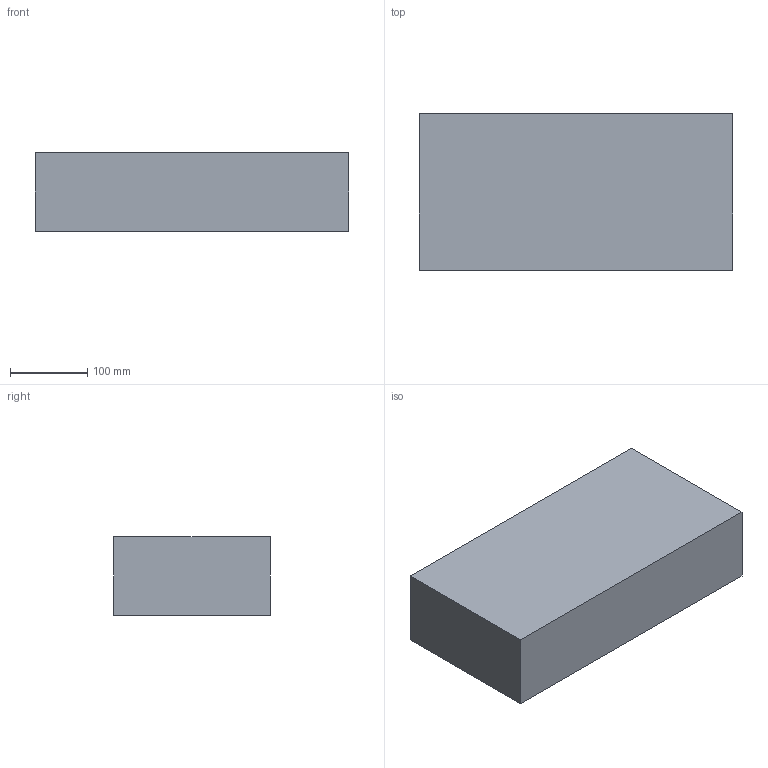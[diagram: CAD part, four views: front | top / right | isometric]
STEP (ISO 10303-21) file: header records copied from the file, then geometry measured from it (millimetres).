
FILE_DESCRIPTION(('FreeCAD Model'),'2;1');
FILE_NAME('/home/jwright/Documents/Mach_30/Shepard_v1.0_CAD/STEP_Files/Shepard_v1.0_Concrete_Block.step','2012-10-21T18:11:14',('FreeCAD'),('FreeCAD'), 'Open CASCADE STEP processor 6.5','FreeCAD','Unknown');
FILE_SCHEMA(('AUTOMOTIVE_DESIGN_CC2 { 1 2 10303 214 -1 1 5 4 }'));
Length unit declared in the file: millimetre
Products named in the file (1): Concrete_Block
Bounding box: 406.4 x 203.2 x 101.6 mm (x, y, z)
Volume: 8390176.4 mm3; surface area: 289031.7 mm2
Topology: 1 solids, 1 shells, 6 faces, 12 edges, 8 vertices
Faces by surface type: plane 6
Entity records: 333 total; most frequent: CARTESIAN_POINT 51, DIRECTION 50, LINE 36, VECTOR 36, ORIENTED_EDGE 24, PCURVE 24, DEFINITIONAL_REPRESENTATION 24, EDGE_CURVE 12
